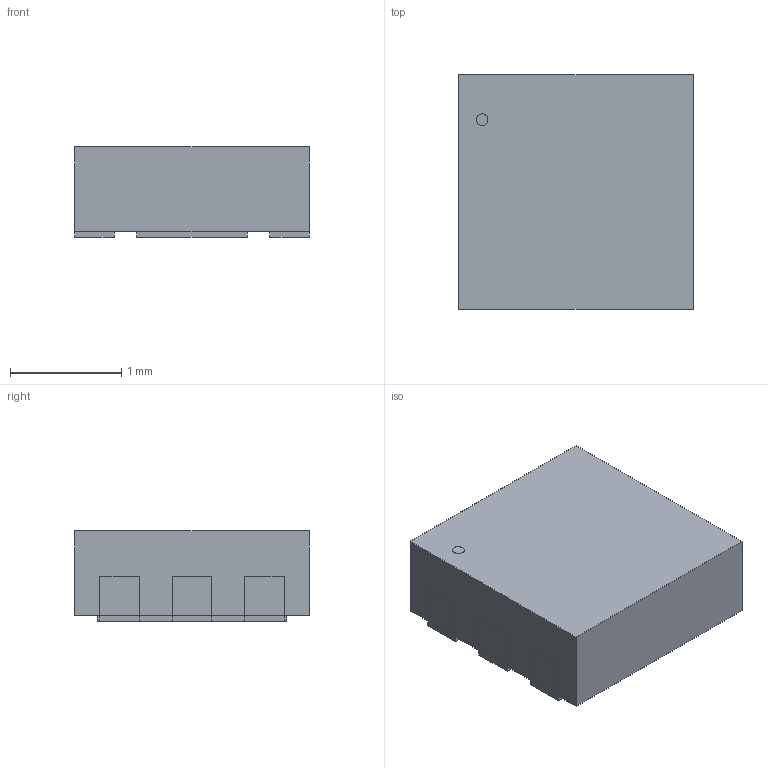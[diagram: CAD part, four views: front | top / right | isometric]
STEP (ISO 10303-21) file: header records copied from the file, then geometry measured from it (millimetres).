
FILE_DESCRIPTION(('STEP AP214'),'1');
FILE_NAME('WDFNW6_511DW_ONS_OSI','2026-07-14T11:37:58',(''),(''),'','','');
FILE_SCHEMA(('AUTOMOTIVE_DESIGN'));
Length unit declared in the file: millimetre
Products named in the file (1): product
Bounding box: 2.11 x 2.11 x 0.81 mm (x, y, z)
Volume: 3.5 mm3; surface area: 22.4 mm2
Topology: 9 solids, 9 shells, 63 faces, 123 edges, 78 vertices
Faces by surface type: plane 62, cylinder 1
Full cylindrical faces by diameter (mm): 0.105 x1
Entity records: 1753 total; most frequent: ORIENTED_EDGE 268, DIRECTION 266, CARTESIAN_POINT 157, EDGE_CURVE 134, LINE 132, VECTOR 132, VERTEX_POINT 90, AXIS2_PLACEMENT_3D 67
